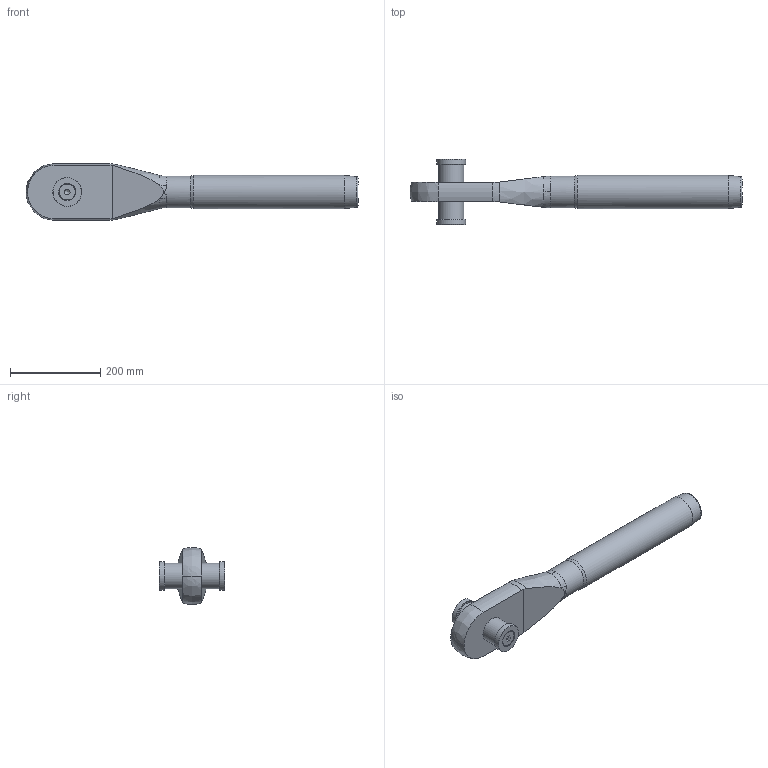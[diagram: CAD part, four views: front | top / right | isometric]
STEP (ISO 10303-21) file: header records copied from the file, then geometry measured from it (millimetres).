
FILE_DESCRIPTION(/* description */ (''),/* implementation_level */ '2;1');
FILE_NAME(/* name */ 'MCC 40_1,4418',/* time_stamp */ '2023-05-23T15:40:41+02:00',/* author */ (''),/* organization */ (''),/* preprocessor_version */ 'ST-DEVELOPER v16.5',/* originating_system */ 'Rhino 7.22',/* authorisation */ '');
FILE_SCHEMA (('CONFIG_CONTROL_DESIGN'));
Length unit declared in the file: millimetre
Products named in the file (1): Document
Bounding box: 735 x 144.95 x 125.99 mm (x, y, z)
Volume: 3533863.8 mm3; surface area: 252283.6 mm2
Topology: 6 solids, 6 shells, 74 faces, 202 edges, 134 vertices
Faces by surface type: bspline 31, plane 27, cylinder 16
Full cylindrical faces by diameter (mm): 17.294 x2, 20 x2, 21 x2, 35.4 x2, 56 x1, 57 x1, 64 x2, 70 x1, 73.5 x1
Entity records: 3251 total; most frequent: CARTESIAN_POINT 2000, ORIENTED_EDGE 384, EDGE_CURVE 192, VERTEX_POINT 134, EDGE_LOOP 84, ADVANCED_FACE 74, FACE_OUTER_BOUND 74, B_SPLINE_CURVE_WITH_KNOTS 64
